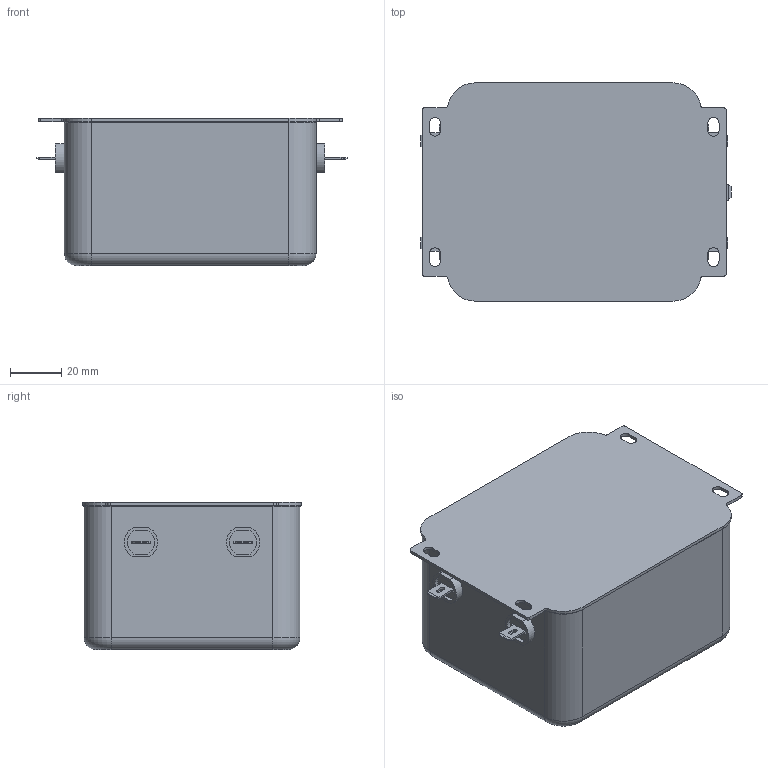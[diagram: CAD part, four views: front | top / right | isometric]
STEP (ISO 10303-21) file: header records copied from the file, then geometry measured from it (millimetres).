
FILE_DESCRIPTION((''),'2;1');
FILE_NAME('P:\Construction\Filter_Marketing\FN\FN2080\FN2080-16-06\FN2080-16-06.stp','2014-10-01T15:20:35',('erika.jenzer'),(''),'Autodesk Inventor 2013','Autodesk Inventor 2013','');
FILE_SCHEMA(('AUTOMOTIVE_DESIGN { 1 0 10303 214 1 1 1 1 }'));
Length unit declared in the file: millimetre
Products named in the file (1): FN2080-16-06
Bounding box: 121.5 x 85.5 x 57.6 mm (x, y, z)
Volume: 475400.7 mm3; surface area: 40412.5 mm2
Topology: 1 solids, 5 shells, 383 faces, 1004 edges, 644 vertices
Faces by surface type: plane 219, cylinder 124, bspline 32, torus 8
Entity records: 12807 total; most frequent: CARTESIAN_POINT 2896, ORIENTED_EDGE 2008, DIRECTION 1900, EDGE_CURVE 1004, VECTOR 684, LINE 684, VERTEX_POINT 644, AXIS2_PLACEMENT_3D 608
